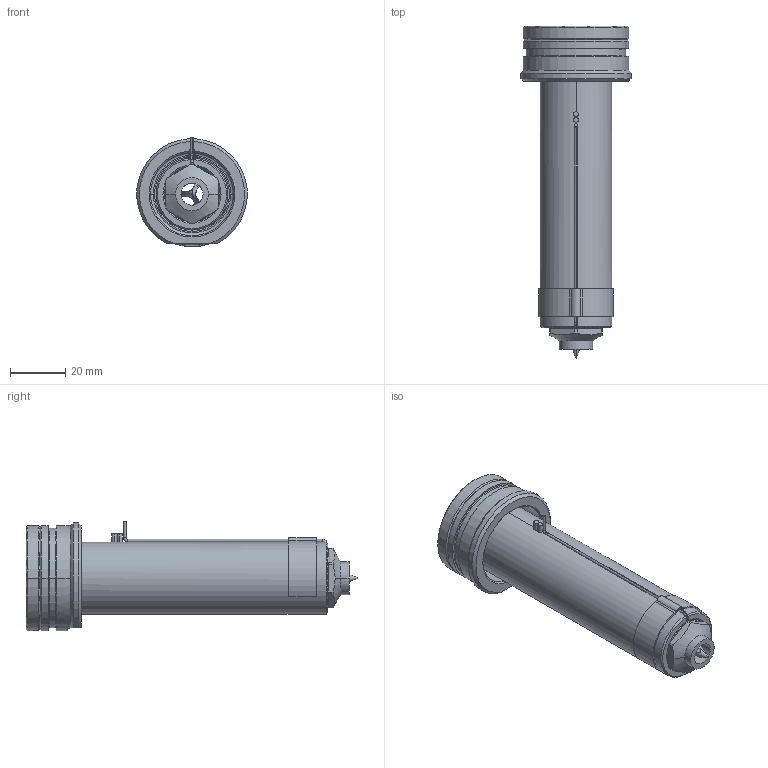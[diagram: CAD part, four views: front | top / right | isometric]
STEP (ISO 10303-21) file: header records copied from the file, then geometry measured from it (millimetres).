
FILE_DESCRIPTION((''),'2;1');
FILE_NAME('EO08_PG-BL_STD_100_SW','2024-02-19T11:05:17',('sundharh'),(''),'CREO PARAMETRIC BY PTC INC, 2023154','CREO PARAMETRIC BY PTC INC, 2023154','');
FILE_SCHEMA(('CONFIG_CONTROL_DESIGN'));
Length unit declared in the file: millimetre
Products named in the file (1): EO08_PG-BL_STD_100_SW
Bounding box: 39.88 x 120 x 39.52 mm (x, y, z)
Volume: 63857 mm3; surface area: 19534.9 mm2
Topology: 1 solids, 1 shells, 203 faces, 542 edges, 336 vertices
Faces by surface type: cylinder 79, plane 58, cone 41, torus 19, bspline 4, sphere 2
Entity records: 7891 total; most frequent: CARTESIAN_POINT 2708, DIRECTION 1140, ORIENTED_EDGE 1076, EDGE_CURVE 538, AXIS2_PLACEMENT_3D 476, VERTEX_POINT 336, CIRCLE 277, EDGE_LOOP 220
